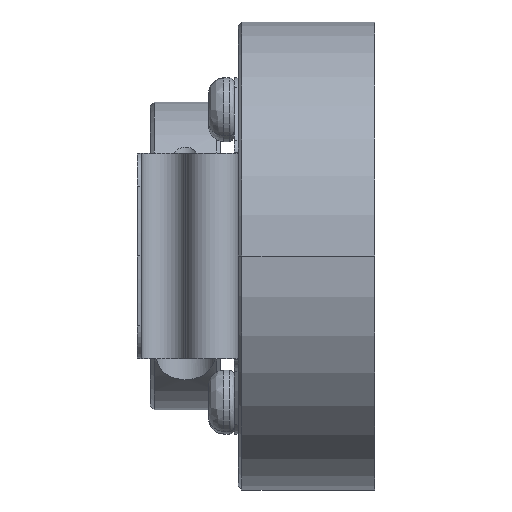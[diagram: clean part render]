
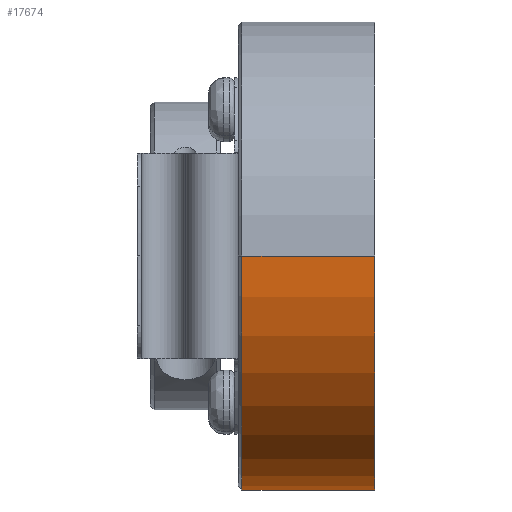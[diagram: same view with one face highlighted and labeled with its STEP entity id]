
A CAD part, front view. The second image highlights one B-rep face of the part: STEP entity #17674.
In plain terms, the highlighted cylindrical face has radius 18.25 mm (diameter 36.5 mm), a partial arc.
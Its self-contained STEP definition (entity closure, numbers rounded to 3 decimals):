
#530 = CARTESIAN_POINT ( 'NONE',  ( -1.3, 18.25, 0. ) ) ;
#1794 = ORIENTED_EDGE ( 'NONE', *, *, #2749, .T. ) ;
#2025 = LINE ( 'NONE', #14636, #23189 ) ;
#2259 = CARTESIAN_POINT ( 'NONE',  ( -11.65, -18.25, 0. ) ) ;
#2749 = EDGE_CURVE ( 'NONE', #28114, #22284, #25186, .T. ) ;
#2906 = CARTESIAN_POINT ( 'NONE',  ( -1.3, -18.25, 0. ) ) ;
#4688 = VERTEX_POINT ( 'NONE', #2906 ) ;
#5001 = DIRECTION ( 'NONE',  ( 0., 1., 0. ) ) ;
#6946 = DIRECTION ( 'NONE',  ( 0., 1., 0. ) ) ;
#7738 = CARTESIAN_POINT ( 'NONE',  ( -11.65, 18.25, 0. ) ) ;
#8146 = EDGE_LOOP ( 'NONE', ( #24768, #16315, #1794, #18574 ) ) ;
#9430 = EDGE_CURVE ( 'NONE', #26864, #4688, #14423, .T. ) ;
#10823 = CARTESIAN_POINT ( 'NONE',  ( -1000., -18.25, 0. ) ) ;
#12224 = CARTESIAN_POINT ( 'NONE',  ( -1.3, 0., 0. ) ) ;
#12680 = LINE ( 'NONE', #10823, #12997 ) ;
#12927 = AXIS2_PLACEMENT_3D ( 'NONE', #24820, #22537, #5001 ) ;
#12997 = VECTOR ( 'NONE', #15066, 1000. ) ;
#14423 = CIRCLE ( 'NONE', #21636, 18.25 ) ;
#14636 = CARTESIAN_POINT ( 'NONE',  ( -1000., 18.25, 0. ) ) ;
#15066 = DIRECTION ( 'NONE',  ( -1., 0., 0. ) ) ;
#16315 = ORIENTED_EDGE ( 'NONE', *, *, #16831, .T. ) ;
#16831 = EDGE_CURVE ( 'NONE', #4688, #28114, #12680, .T. ) ;
#17144 = AXIS2_PLACEMENT_3D ( 'NONE', #22069, #17795, #6946 ) ;
#17674 = ADVANCED_FACE ( 'NONE', ( #18000 ), #27208, .T. ) ;
#17795 = DIRECTION ( 'NONE',  ( 1., 0., 0. ) ) ;
#18000 = FACE_OUTER_BOUND ( 'NONE', #8146, .T. ) ;
#18574 = ORIENTED_EDGE ( 'NONE', *, *, #25123, .F. ) ;
#18579 = DIRECTION ( 'NONE',  ( -1., 0., 0. ) ) ;
#18952 = DIRECTION ( 'NONE',  ( 0., 1., 0. ) ) ;
#21636 = AXIS2_PLACEMENT_3D ( 'NONE', #12224, #18579, #18952 ) ;
#22069 = CARTESIAN_POINT ( 'NONE',  ( -11.65, 0., 0. ) ) ;
#22284 = VERTEX_POINT ( 'NONE', #7738 ) ;
#22537 = DIRECTION ( 'NONE',  ( -1., 0., 0. ) ) ;
#23189 = VECTOR ( 'NONE', #25665, 1000. ) ;
#24768 = ORIENTED_EDGE ( 'NONE', *, *, #9430, .T. ) ;
#24820 = CARTESIAN_POINT ( 'NONE',  ( -1000., 0., 0. ) ) ;
#25123 = EDGE_CURVE ( 'NONE', #26864, #22284, #2025, .T. ) ;
#25186 = CIRCLE ( 'NONE', #17144, 18.25 ) ;
#25665 = DIRECTION ( 'NONE',  ( -1., 0., 0. ) ) ;
#26864 = VERTEX_POINT ( 'NONE', #530 ) ;
#27208 = CYLINDRICAL_SURFACE ( 'NONE', #12927, 18.25 ) ;
#28114 = VERTEX_POINT ( 'NONE', #2259 ) ;
